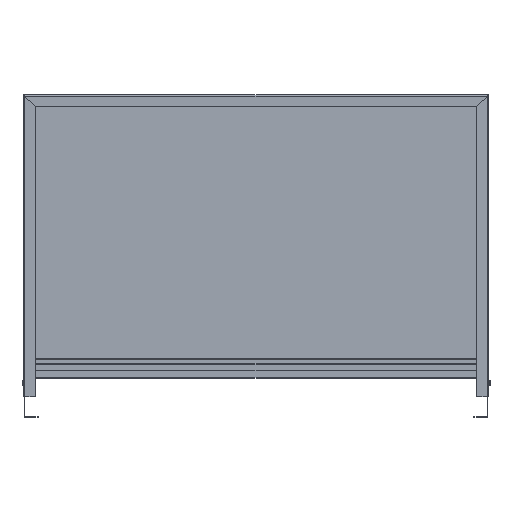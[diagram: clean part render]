
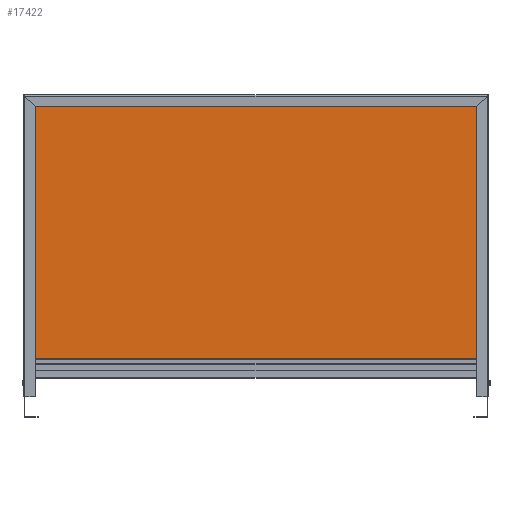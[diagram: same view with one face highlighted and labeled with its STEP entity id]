
A CAD part, front view. The second image highlights one B-rep face of the part: STEP entity #17422.
In plain terms, the highlighted planar face has unit normal (0, -1, 0).
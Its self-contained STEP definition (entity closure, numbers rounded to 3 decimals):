
#12334=CARTESIAN_POINT('',(-475.5,0.8,81.8));
#12335=VERTEX_POINT('',#12334);
#12368=CARTESIAN_POINT('',(-497.771,0.8,647.2));
#12369=VERTEX_POINT('',#12368);
#12399=CARTESIAN_POINT('',(-475.5,0.8,624.929));
#12400=VERTEX_POINT('',#12399);
#12407=CARTESIAN_POINT('',(-475.5,0.8,624.929));
#12408=DIRECTION('',(-0.707,0.,0.707));
#12409=VECTOR('',#12408,31.496);
#12410=LINE('',#12407,#12409);
#12411=EDGE_CURVE('',#12400,#12369,#12410,.T.);
#12436=CARTESIAN_POINT('',(-475.5,0.8,624.929));
#12437=DIRECTION('',(0.,0.,-1.));
#12438=VECTOR('',#12437,543.129);
#12439=LINE('',#12436,#12438);
#12440=EDGE_CURVE('',#12400,#12335,#12439,.T.);
#12592=CARTESIAN_POINT('',(475.5,0.8,81.8));
#12593=VERTEX_POINT('',#12592);
#12608=CARTESIAN_POINT('',(497.771,0.8,647.2));
#12609=VERTEX_POINT('',#12608);
#12662=CARTESIAN_POINT('',(475.5,0.8,624.929));
#12663=VERTEX_POINT('',#12662);
#12664=CARTESIAN_POINT('',(497.771,0.8,647.2));
#12665=DIRECTION('',(-0.707,-0.,-0.707));
#12666=VECTOR('',#12665,31.496);
#12667=LINE('',#12664,#12666);
#12668=EDGE_CURVE('',#12609,#12663,#12667,.T.);
#12686=CARTESIAN_POINT('',(475.5,0.8,81.8));
#12687=DIRECTION('',(0.,0.,1.));
#12688=VECTOR('',#12687,543.129);
#12689=LINE('',#12686,#12688);
#12690=EDGE_CURVE('',#12593,#12663,#12689,.T.);
#12848=CARTESIAN_POINT('',(-497.629,0.8,647.2));
#12849=VERTEX_POINT('',#12848);
#12856=CARTESIAN_POINT('',(-475.429,0.8,625.));
#12857=VERTEX_POINT('',#12856);
#12858=CARTESIAN_POINT('',(-497.629,0.8,647.2));
#12859=DIRECTION('',(0.707,-0.,-0.707));
#12860=VECTOR('',#12859,31.396);
#12861=LINE('',#12858,#12860);
#12862=EDGE_CURVE('',#12849,#12857,#12861,.T.);
#12909=CARTESIAN_POINT('',(497.629,0.8,647.2));
#12910=VERTEX_POINT('',#12909);
#12941=CARTESIAN_POINT('',(475.429,0.8,625.));
#12942=VERTEX_POINT('',#12941);
#12949=CARTESIAN_POINT('',(475.429,0.8,625.));
#12950=DIRECTION('',(0.707,0.,0.707));
#12951=VECTOR('',#12950,31.396);
#12952=LINE('',#12949,#12951);
#12953=EDGE_CURVE('',#12942,#12910,#12952,.T.);
#12972=CARTESIAN_POINT('',(475.429,0.8,625.));
#12973=DIRECTION('',(-1.,0.,0.));
#12974=VECTOR('',#12973,950.859);
#12975=LINE('',#12972,#12974);
#12976=EDGE_CURVE('',#12942,#12857,#12975,.T.);
#17390=CARTESIAN_POINT('',(0.,0.8,0.));
#17391=DIRECTION('',(0.,1.,0.));
#17392=DIRECTION('',(-1.,0.,0.));
#17393=AXIS2_PLACEMENT_3D('',#17390,#17391,#17392);
#17394=PLANE('',#17393);
#17395=ORIENTED_EDGE('',*,*,#12411,.F.);
#17396=ORIENTED_EDGE('',*,*,#12440,.T.);
#17397=CARTESIAN_POINT('',(475.5,0.8,81.8));
#17398=DIRECTION('',(-1.,0.,0.));
#17399=VECTOR('',#17398,951.);
#17400=LINE('',#17397,#17399);
#17401=EDGE_CURVE('',#12593,#12335,#17400,.T.);
#17402=ORIENTED_EDGE('',*,*,#17401,.F.);
#17403=ORIENTED_EDGE('',*,*,#12690,.T.);
#17404=ORIENTED_EDGE('',*,*,#12668,.F.);
#17405=CARTESIAN_POINT('',(497.629,0.8,647.2));
#17406=DIRECTION('',(1.,0.,-0.));
#17407=VECTOR('',#17406,0.141);
#17408=LINE('',#17405,#17407);
#17409=EDGE_CURVE('',#12910,#12609,#17408,.T.);
#17410=ORIENTED_EDGE('',*,*,#17409,.F.);
#17411=ORIENTED_EDGE('',*,*,#12953,.F.);
#17412=ORIENTED_EDGE('',*,*,#12976,.T.);
#17413=ORIENTED_EDGE('',*,*,#12862,.F.);
#17414=CARTESIAN_POINT('',(-497.771,0.8,647.2));
#17415=DIRECTION('',(1.,0.,-0.));
#17416=VECTOR('',#17415,0.141);
#17417=LINE('',#17414,#17416);
#17418=EDGE_CURVE('',#12369,#12849,#17417,.T.);
#17419=ORIENTED_EDGE('',*,*,#17418,.F.);
#17420=EDGE_LOOP('',(#17395,#17396,#17402,#17403,#17404,#17410,#17411,#17412,#17413,#17419));
#17421=FACE_BOUND('',#17420,.T.);
#17422=ADVANCED_FACE('',(#17421),#17394,.F.);
